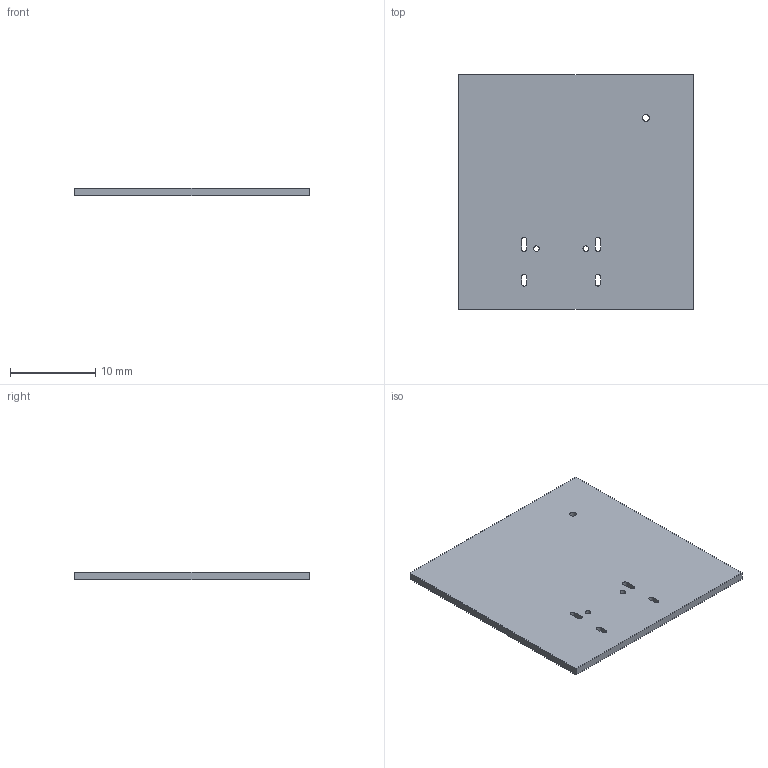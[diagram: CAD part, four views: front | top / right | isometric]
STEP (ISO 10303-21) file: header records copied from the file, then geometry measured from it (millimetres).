
FILE_DESCRIPTION(('Open CASCADE Model'),'2;1');
FILE_NAME('Open CASCADE Shape Model','2026-10-29T11:30:37',('Author'),( 'Open CASCADE'),'Open CASCADE STEP processor 7.9','Open CASCADE 7.9' ,'Unknown');
FILE_SCHEMA(('AUTOMOTIVE_DESIGN { 1 0 10303 214 1 1 1 1 }'));
Length unit declared in the file: millimetre
Products named in the file (1): Open CASCADE STEP translator 7.9 3
Bounding box: 27.5 x 27.5 x 0.9 mm (x, y, z)
Volume: 676.5 mm3; surface area: 1621.9 mm2
Topology: 1 solids, 1 shells, 25 faces, 69 edges, 46 vertices
Faces by surface type: bspline 25
Entity records: 1790 total; most frequent: CARTESIAN_POINT 895, B_SPLINE_CURVE_WITH_KNOTS 163, ORIENTED_EDGE 138, PCURVE 138, DEFINITIONAL_REPRESENTATION 138, EDGE_CURVE 69, SURFACE_CURVE 66, VERTEX_POINT 46
